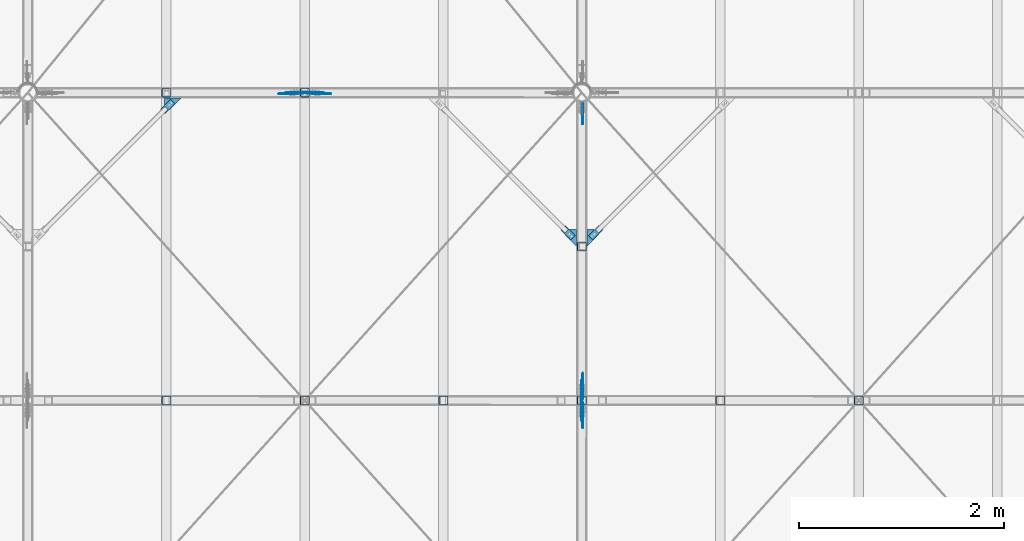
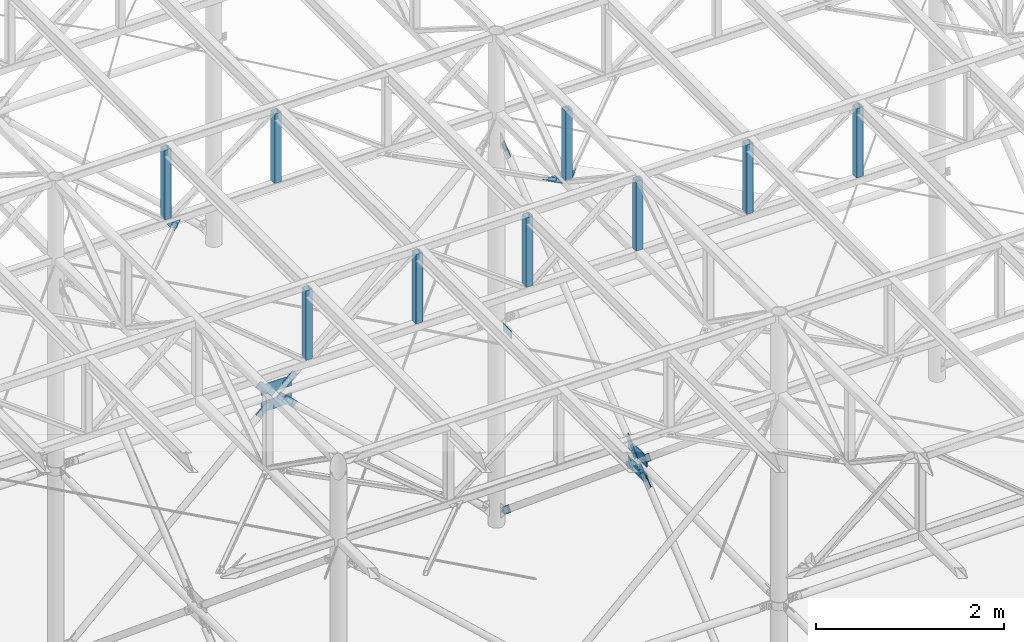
# One storey, part 90 of 132: 40 discrete accessories, 23 elements without a shape of their own.
"""IFC2X3 building model written with IfcOpenShell, lengths in millimetres."""

from ifc_helpers import new_model, si_unit, frame, origin_with_axes, origin_2d_with_axis, place, context, subcontext, project, spatial, polyline, rectangle, hollow_rectangle, outline, extrude, boolean, clip, halfspace, material, type_object, element, aggregate, save


model = new_model("IFC2X3")

# Units and contexts
model_context = context("Model", 3, precision=1e-05, world=origin_with_axes())
body_context = subcontext(model_context, "Body", "Model", "MODEL_VIEW")
ifc_project = project(units=[si_unit("LENGTHUNIT", "METRE", prefix="MILLI"), si_unit("AREAUNIT", "SQUARE_METRE"), si_unit("VOLUMEUNIT", "CUBIC_METRE"), si_unit("MASSUNIT", "GRAM", prefix="KILO"), si_unit("TIMEUNIT", "SECOND"), si_unit("PLANEANGLEUNIT", "RADIAN"), si_unit("SOLIDANGLEUNIT", "STERADIAN"), si_unit("THERMODYNAMICTEMPERATUREUNIT", "DEGREE_CELSIUS"), si_unit("LUMINOUSINTENSITYUNIT", "LUMEN")], contexts=[model_context])

# Site, building, storey
site_placement = place(None, origin_with_axes())
site = spatial("IfcSite", under=ifc_project, at=site_placement, Name="Budowa", CompositionType="ELEMENT")
building_placement = place(site_placement, origin_with_axes())
building = spatial("IfcBuilding", under=site, at=building_placement, Name="Undefined", CompositionType="ELEMENT")
storey_placement = place(building_placement, origin_with_axes())
storey = spatial("IfcBuildingStorey", under=building, at=storey_placement, Name="Undefined", CompositionType="ELEMENT", Elevation=0.0)

# Assembly, discrete accessory
assembly_1_placement = place(storey_placement, origin_with_axes())
assembly_1 = element("IfcElementAssembly", 1, at=assembly_1_placement, inside=storey, Name="Steel Assembly", AssemblyPlace="NOTDEFINED", PredefinedType="RIGID_FRAME")
ifc_material = material(Name="STEEL/S235")
discrete_accessory_type_1 = type_object("IfcDiscreteAccessoryType", Name="BLACHA")
discrete_accessory_1_placement = place(assembly_1_placement, frame((12051.7643931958, 17989.999997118, 9989.80782337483), z_axis=(0.0, -1.0, 0.0), x_axis=(0.0395984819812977, 0.0, 0.999215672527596)))
discrete_accessory_1 = element("IfcDiscreteAccessory", 2, at=discrete_accessory_1_placement, type_object=discrete_accessory_type_1, material=ifc_material, Name="BLACHA", ObjectType="BL8*86", context=body_context, shape_type="SweptSolid", body=[
    extrude(outline(polyline([(0.0, 0.0), (28.2842712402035, 3.27418092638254e-11), (60.8111839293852, 32.5269126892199), (60.8111839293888, 60.8111839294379), (-59.3969688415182, 181.019332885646), (-120.20815277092, 120.208152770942), (0.0, 0.0)])), frame((0.0, 0.0, -4.0), z_axis=(0.0, 0.0, 1.0), x_axis=(1.0, 0.0, 0.0)), (0.0, 0.0, 1.0), 8.0),
])
aggregate(assembly_1, [discrete_accessory_1])

assembly_2_placement = place(storey_placement, origin_with_axes())
assembly_2 = element("IfcElementAssembly", 3, at=assembly_2_placement, inside=storey, Name="Steel Assembly", AssemblyPlace="NOTDEFINED", PredefinedType="RIGID_FRAME")
discrete_accessory_2_placement = place(assembly_2_placement, frame((12256.5937293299, 17989.999997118, 10052.9793451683), z_axis=(0.0, -1.0, 0.0), x_axis=(-0.999215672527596, 0.0, -0.0395984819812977)))
discrete_accessory_2 = element("IfcDiscreteAccessory", 4, at=discrete_accessory_2_placement, type_object=discrete_accessory_type_1, material=ifc_material, Name="BLACHA", ObjectType="BL8*86", context=body_context, shape_type="SweptSolid", body=[
    extrude(outline(polyline([(0.0, 0.0), (28.2842712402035, 3.27418092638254e-11), (60.8111839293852, 32.5269126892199), (60.8111839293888, 60.8111839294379), (-59.3969688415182, 181.019332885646), (-120.20815277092, 120.208152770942), (0.0, 0.0)])), frame((0.0, 0.0, -4.0), z_axis=(0.0, 0.0, 1.0), x_axis=(1.0, 0.0, 0.0)), (0.0, 0.0, 1.0), 8.0),
])
aggregate(assembly_2, [discrete_accessory_2])

assembly_3_placement = place(storey_placement, origin_with_axes())
assembly_3 = element("IfcElementAssembly", 5, at=assembly_3_placement, inside=storey, Name="Steel Assembly", AssemblyPlace="NOTDEFINED", PredefinedType="RIGID_FRAME")
discrete_accessory_3_placement = place(assembly_3_placement, frame((12311.4051663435, 17997.999997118, 10071.5503790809), z_axis=(0.0, -1.0, 0.0), x_axis=(-1.0, 0.0, 0.0)))
discrete_accessory_3 = element("IfcDiscreteAccessory", 6, at=discrete_accessory_3_placement, type_object=discrete_accessory_type_1, material=ifc_material, Name="BLACHA", ObjectType="BL8*133", context=body_context, shape_type="SweptSolid", body=[
    extrude(outline(polyline([(0.0, 0.0), (372.807678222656, 0.0), (372.807678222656, 62.396900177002), (307.666687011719, 132.913940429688), (65.1409759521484, 132.913940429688), (0.0, 62.396900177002), (0.0, 0.0)])), frame((0.0, 0.0, -4.0), z_axis=(0.0, 0.0, 1.0), x_axis=(1.0, 0.0, 0.0)), (0.0, 0.0, 1.0), 8.0),
])

assembly_4_placement = place(storey_placement, origin_with_axes())
assembly_4 = element("IfcElementAssembly", 7, at=assembly_4_placement, inside=storey, Name="Steel Assembly", AssemblyPlace="NOTDEFINED", PredefinedType="RIGID_FRAME")
discrete_accessory_4_placement = place(assembly_4_placement, frame((11993.4089381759, 17989.9999968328, 10179.0214130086), z_axis=(0.0, -1.0, 0.0), x_axis=(0.999215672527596, 0.0, 0.0395984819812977)))
discrete_accessory_4 = element("IfcDiscreteAccessory", 8, at=discrete_accessory_4_placement, type_object=discrete_accessory_type_1, material=ifc_material, Name="BLACHA", ObjectType="BL8*86", context=body_context, shape_type="SweptSolid", body=[
    extrude(outline(polyline([(0.0, 0.0), (28.2842712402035, 3.27418092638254e-11), (60.8111839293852, 32.5269126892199), (60.8111839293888, 60.8111839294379), (-59.3969688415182, 181.019332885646), (-120.20815277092, 120.208152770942), (0.0, 0.0)])), frame((0.0, 0.0, -4.0), z_axis=(0.0, 0.0, 1.0), x_axis=(1.0, 0.0, 0.0)), (0.0, 0.0, 1.0), 8.0),
])
aggregate(assembly_4, [discrete_accessory_4])

assembly_5_placement = place(storey_placement, origin_with_axes())
assembly_5 = element("IfcElementAssembly", 9, at=assembly_5_placement, inside=storey, Name="Steel Assembly", AssemblyPlace="NOTDEFINED", PredefinedType="RIGID_FRAME")
discrete_accessory_5_placement = place(assembly_5_placement, frame((12198.2382742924, 17989.9999968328, 10242.192930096), z_axis=(0.0, -1.0, 0.0), x_axis=(-0.0395984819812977, 0.0, -0.999215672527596)))
discrete_accessory_5 = element("IfcDiscreteAccessory", 10, at=discrete_accessory_5_placement, type_object=discrete_accessory_type_1, material=ifc_material, Name="BLACHA", ObjectType="BL8*86", context=body_context, shape_type="SweptSolid", body=[
    extrude(outline(polyline([(0.0, 0.0), (28.2842712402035, 3.27418092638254e-11), (60.8111839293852, 32.5269126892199), (60.8111839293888, 60.8111839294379), (-59.3969688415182, 181.019332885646), (-120.20815277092, 120.208152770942), (0.0, 0.0)])), frame((0.0, 0.0, -4.0), z_axis=(0.0, 0.0, 1.0), x_axis=(1.0, 0.0, 0.0)), (0.0, 0.0, 1.0), 8.0),
])
aggregate(assembly_5, [discrete_accessory_5])

# Discrete accessory
discrete_accessory_6_placement = place(assembly_3_placement, frame((11938.5974989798, 17997.9999968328, 10160.4503767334), z_axis=(0.0, -1.0, 0.0), x_axis=(1.0, 0.0, 0.0)))
discrete_accessory_6 = element("IfcDiscreteAccessory", 11, at=discrete_accessory_6_placement, type_object=discrete_accessory_type_1, material=ifc_material, Name="BLACHA", ObjectType="BL8*133", context=body_context, shape_type="SweptSolid", body=[
    extrude(outline(polyline([(0.0, 0.0), (372.807678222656, 0.0), (372.807678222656, 62.396900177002), (307.666687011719, 132.913940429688), (65.1409759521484, 132.913940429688), (0.0, 62.396900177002), (0.0, 0.0)])), frame((0.0, 0.0, -4.0), z_axis=(0.0, 0.0, 1.0), x_axis=(1.0, 0.0, 0.0)), (0.0, 0.0, 1.0), 8.0),
])

aggregate(assembly_3, [discrete_accessory_3, discrete_accessory_6])

# Assembly, discrete accessory
assembly_6_placement = place(storey_placement, origin_with_axes())
assembly_6 = element("IfcElementAssembly", 12, at=assembly_6_placement, inside=storey, Name="Steel Assembly", AssemblyPlace="NOTDEFINED", PredefinedType="RIGID_FRAME")
discrete_accessory_7_placement = place(assembly_6_placement, frame((14832.9999991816, 14913.770166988, 9988.42275801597), z_axis=(1.0, 0.0, 0.0), x_axis=(0.0, 0.091855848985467, 0.995772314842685)))
discrete_accessory_7 = element("IfcDiscreteAccessory", 13, at=discrete_accessory_7_placement, type_object=discrete_accessory_type_1, material=ifc_material, Name="BLACHA", ObjectType="BL8*86", context=body_context, shape_type="SweptSolid", body=[
    extrude(outline(polyline([(0.0, 0.0), (28.2842712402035, 3.27418092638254e-11), (60.8111839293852, 32.5269126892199), (60.8111839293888, 60.8111839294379), (-59.3969688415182, 181.019332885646), (-120.20815277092, 120.208152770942), (0.0, 0.0)])), frame((0.0, 0.0, -4.0), z_axis=(0.0, 0.0, 1.0), x_axis=(1.0, 0.0, 0.0)), (0.0, 0.0, 1.0), 8.0),
])
aggregate(assembly_6, [discrete_accessory_7])

assembly_7_placement = place(storey_placement, origin_with_axes())
assembly_7 = element("IfcElementAssembly", 14, at=assembly_7_placement, inside=storey, Name="Steel Assembly", AssemblyPlace="NOTDEFINED", PredefinedType="RIGID_FRAME")
discrete_accessory_8_placement = place(assembly_7_placement, frame((14832.9999991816, 15141.2002099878, 10054.5627170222), z_axis=(1.0, 0.0, 0.0), x_axis=(0.0, -0.995772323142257, -0.0918557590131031)))
discrete_accessory_8 = element("IfcDiscreteAccessory", 15, at=discrete_accessory_8_placement, type_object=discrete_accessory_type_1, material=ifc_material, Name="BLACHA", ObjectType="BL8*86", context=body_context, shape_type="SweptSolid", body=[
    extrude(outline(polyline([(0.0, 0.0), (28.2842712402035, 3.27418092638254e-11), (60.8111839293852, 32.5269126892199), (60.8111839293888, 60.8111839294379), (-59.3969688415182, 181.019332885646), (-120.20815277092, 120.208152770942), (0.0, 0.0)])), frame((0.0, 0.0, -4.0), z_axis=(0.0, 0.0, 1.0), x_axis=(1.0, 0.0, 0.0)), (0.0, 0.0, 1.0), 8.0),
])

assembly_8_placement = place(storey_placement, origin_with_axes())
assembly_8 = element("IfcElementAssembly", 16, at=assembly_8_placement, inside=storey, Name="Steel Assembly", AssemblyPlace="NOTDEFINED", PredefinedType="RIGID_FRAME")
discrete_accessory_9_placement = place(assembly_8_placement, frame((14824.9999991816, 15198.2308804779, 10072.3460259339), z_axis=(1.0, 0.0, 0.0), x_axis=(0.0, -1.0, 0.0)))
discrete_accessory_9 = element("IfcDiscreteAccessory", 17, at=discrete_accessory_9_placement, type_object=discrete_accessory_type_1, material=ifc_material, Name="BLACHA", ObjectType="BL8*133", context=body_context, shape_type="SweptSolid", body=[
    extrude(outline(polyline([(0.0, 0.0), (396.459625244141, 0.0), (396.459625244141, 58.6795501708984), (335.099731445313, 132.510192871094), (61.3598861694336, 132.510192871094), (0.0, 58.6795463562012), (0.0, 0.0)])), frame((0.0, 0.0, -4.0), z_axis=(0.0, 0.0, 1.0), x_axis=(1.0, 0.0, 0.0)), (0.0, 0.0, 1.0), 8.0),
])

assembly_9_placement = place(storey_placement, origin_with_axes())
assembly_9 = element("IfcElementAssembly", 18, at=assembly_9_placement, inside=storey, Name="Steel Assembly", AssemblyPlace="NOTDEFINED", PredefinedType="RIGID_FRAME")
discrete_accessory_10_placement = place(assembly_9_placement, frame((14832.9999994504, 15086.232628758, 10243.5779976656), z_axis=(1.0, 0.0, 0.0), x_axis=(0.0, -0.0918558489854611, -0.995772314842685)))
discrete_accessory_10 = element("IfcDiscreteAccessory", 19, at=discrete_accessory_10_placement, type_object=discrete_accessory_type_1, material=ifc_material, Name="BLACHA", ObjectType="BL8*86", context=body_context, shape_type="SweptSolid", body=[
    extrude(outline(polyline([(0.0, 0.0), (28.2842712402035, 3.27418092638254e-11), (60.8111839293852, 32.5269126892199), (60.8111839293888, 60.8111839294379), (-59.3969688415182, 181.019332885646), (-120.20815277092, 120.208152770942), (0.0, 0.0)])), frame((0.0, 0.0, -4.0), z_axis=(0.0, 0.0, 1.0), x_axis=(1.0, 0.0, 0.0)), (0.0, 0.0, 1.0), 8.0),
])

assembly_10_placement = place(storey_placement, origin_with_axes())
assembly_10 = element("IfcElementAssembly", 20, at=assembly_10_placement, inside=storey, Name="Steel Assembly", AssemblyPlace="NOTDEFINED", PredefinedType="RIGID_FRAME")
discrete_accessory_11_placement = place(assembly_10_placement, frame((14832.9999994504, 14858.8013364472, 10177.4380412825), z_axis=(1.0, 0.0, 0.0), x_axis=(0.0, 0.995772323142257, 0.0918557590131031)))
discrete_accessory_11 = element("IfcDiscreteAccessory", 21, at=discrete_accessory_11_placement, type_object=discrete_accessory_type_1, material=ifc_material, Name="BLACHA", ObjectType="BL8*86", context=body_context, shape_type="SweptSolid", body=[
    extrude(outline(polyline([(0.0, 0.0), (28.2842712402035, 3.27418092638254e-11), (60.8111839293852, 32.5269126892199), (60.8111839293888, 60.8111839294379), (-59.3969688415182, 181.019332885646), (-120.20815277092, 120.208152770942), (0.0, 0.0)])), frame((0.0, 0.0, -4.0), z_axis=(0.0, 0.0, 1.0), x_axis=(1.0, 0.0, 0.0)), (0.0, 0.0, 1.0), 8.0),
])
aggregate(assembly_10, [discrete_accessory_11])

# Discrete accessory
discrete_accessory_12_placement = place(assembly_8_placement, frame((14824.9999994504, 14801.7706639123, 10159.6547299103), z_axis=(1.0, 0.0, 0.0), x_axis=(0.0, 1.0, 0.0)))
discrete_accessory_12 = element("IfcDiscreteAccessory", 22, at=discrete_accessory_12_placement, type_object=discrete_accessory_type_1, material=ifc_material, Name="BLACHA", ObjectType="BL8*133", context=body_context, shape_type="SweptSolid", body=[
    extrude(outline(polyline([(0.0, 0.0), (396.460845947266, 0.0), (396.460845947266, 58.6795501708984), (335.100982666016, 132.510192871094), (61.3598861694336, 132.510192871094), (0.0, 58.6795463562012), (0.0, 0.0)])), frame((0.0, 0.0, -4.0), z_axis=(0.0, 0.0, 1.0), x_axis=(1.0, 0.0, 0.0)), (0.0, 0.0, 1.0), 8.0),
])

discrete_accessory_13_placement = place(assembly_7_placement, frame((14833.0000000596, 17879.0487899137, 7723.25304714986), z_axis=(0.0, 0.639165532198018, 0.76906919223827), x_axis=(0.0, -0.76906919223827, 0.639165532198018)))
discrete_accessory_13 = element("IfcDiscreteAccessory", 23, at=discrete_accessory_13_placement, type_object=discrete_accessory_type_1, material=ifc_material, Name="BLACHA", ObjectType="BL8*86", context=body_context, shape_type="CSG", body=[
    boolean("DIFFERENCE", boolean("DIFFERENCE", extrude(rectangle(XDim=8.0, YDim=86.0, at=origin_2d_with_axis()), frame((190.000000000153, -3.63797880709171e-12, 3.30513394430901e-13), z_axis=(-1.0, 0.0, 0.0), x_axis=(0.0, -1.0, 0.0)), (0.0, 0.0, 1.0), 190.0), extrude(outline(polyline([(0.0, 0.0), (20.0000000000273, -3.63797880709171e-12), (5.45696821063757e-12, 20.0000000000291), (0.0, 0.0)])), frame((3.63797880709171e-12, -6.49999986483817, 43.0), z_axis=(0.0, 1.0, 0.0), x_axis=(1.0, 0.0, 0.0)), (0.0, 0.0, 1.0), 13.0)), extrude(outline(polyline([(0.0, 0.0), (20.0000000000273, -3.63797880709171e-12), (5.45696821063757e-12, 20.0000000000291), (0.0, 0.0)])), frame((0.0, 6.50000013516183, -43.0), z_axis=(0.0, -1.0, 0.0), x_axis=(1.0, 0.0, 0.0)), (0.0, 0.0, 1.0), 13.0)),
])

aggregate(assembly_7, [discrete_accessory_8, discrete_accessory_13])

discrete_accessory_14_placement = place(assembly_9_placement, frame((14833.0000000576, 17879.0487906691, 12508.7467522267), z_axis=(0.0, -0.639165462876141, 0.769069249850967), x_axis=(0.0, -0.769069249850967, -0.639165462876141)))
discrete_accessory_14 = element("IfcDiscreteAccessory", 24, at=discrete_accessory_14_placement, type_object=discrete_accessory_type_1, material=ifc_material, Name="BLACHA", ObjectType="BL8*86", context=body_context, shape_type="CSG", body=[
    boolean("DIFFERENCE", boolean("DIFFERENCE", extrude(rectangle(XDim=8.0, YDim=86.0, at=origin_2d_with_axis()), frame((190.000000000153, -3.63797880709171e-12, 3.30513394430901e-13), z_axis=(-1.0, 0.0, 0.0), x_axis=(0.0, -1.0, 0.0)), (0.0, 0.0, 1.0), 190.0), extrude(outline(polyline([(0.0, 0.0), (20.0000000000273, -3.63797880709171e-12), (5.45696821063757e-12, 20.0000000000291), (0.0, 0.0)])), frame((0.0, 6.50000013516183, -43.0), z_axis=(0.0, -1.0, 0.0), x_axis=(1.0, 0.0, 0.0)), (0.0, 0.0, 1.0), 13.0)), extrude(outline(polyline([(0.0, 0.0), (20.0000000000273, -3.63797880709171e-12), (5.45696821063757e-12, 20.0000000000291), (0.0, 0.0)])), frame((3.63797880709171e-12, -6.49999986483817, 43.0), z_axis=(0.0, 1.0, 0.0), x_axis=(1.0, 0.0, 0.0)), (0.0, 0.0, 1.0), 13.0)),
])

aggregate(assembly_9, [discrete_accessory_10, discrete_accessory_14])

discrete_accessory_15_placement = place(assembly_8_placement, frame((14832.9999972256, 17872.0920947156, 10116.0003779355), z_axis=(-1.0, 0.0, 0.0), x_axis=(0.0, -1.0, 0.0)))
discrete_accessory_15 = element("IfcDiscreteAccessory", 25, at=discrete_accessory_15_placement, type_object=discrete_accessory_type_1, material=ifc_material, Name="BLACHA", ObjectType="BL8*100", context=body_context, shape_type="SweptSolid", body=[
    extrude(outline(polyline([(180.0, -50.0), (0.0, -50.0), (0.0, 50.0), (180.0, 50.0), (180.0, -50.0)])), frame((0.0, 0.0, -4.0), z_axis=(0.0, 0.0, 1.0), x_axis=(1.0, 0.0, 0.0)), (0.0, 0.0, 1.0), 8.0),
])

aggregate(assembly_8, [discrete_accessory_9, discrete_accessory_12, discrete_accessory_15])

# Assembly, discrete accessory
assembly_11_placement = place(storey_placement, origin_with_axes())
assembly_11 = element("IfcElementAssembly", 26, at=assembly_11_placement, inside=storey, Name="Steel Assembly", AssemblyPlace="NOTDEFINED", PredefinedType="RIGID_FRAME")
discrete_accessory_16_placement = place(assembly_11_placement, frame((14833.0000000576, 14964.2782511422, 10086.3112420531), z_axis=(0.0, -0.639165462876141, 0.769069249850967), x_axis=(0.0, -0.769069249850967, -0.639165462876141)))
discrete_accessory_16 = element("IfcDiscreteAccessory", 27, at=discrete_accessory_16_placement, type_object=discrete_accessory_type_1, material=ifc_material, Name="BLACHA", ObjectType="BL8*69", context=body_context, shape_type="SweptSolid", body=[
    extrude(rectangle(XDim=8.0, YDim=69.0, at=origin_2d_with_axis()), frame((149.999999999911, 0.0, 0.0), z_axis=(-1.0, 0.0, 0.0), x_axis=(0.0, -1.0, 0.0)), (0.0, 0.0, 1.0), 150.0),
])
aggregate(assembly_11, [discrete_accessory_16])

# Assembly, discrete accessories
assembly_12_placement = place(storey_placement, origin_with_axes())
assembly_12 = element("IfcElementAssembly", 28, at=assembly_12_placement, inside=storey, Name="Steel Assembly", AssemblyPlace="NOTDEFINED", PredefinedType="RIGID_FRAME")
discrete_accessory_17_placement = place(assembly_12_placement, frame((14825.0000000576, 15007.937722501, 10071.235389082), z_axis=(1.0, 0.0, 0.0), x_axis=(0.0, -0.76906919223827, 0.639165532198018)))
discrete_accessory_17 = element("IfcDiscreteAccessory", 29, at=discrete_accessory_17_placement, type_object=discrete_accessory_type_1, material=ifc_material, Name="BLACHA", ObjectType="BL8*97", context=body_context, shape_type="SweptSolid", body=[
    extrude(outline(polyline([(0.0, 0.0), (98.5107040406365, 3.63797880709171e-12), (98.5107040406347, 97.5665740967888), (20.8438243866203, 112.018440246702), (0.0, 0.0)])), frame((0.0, 0.0, -4.0), z_axis=(0.0, 0.0, 1.0), x_axis=(1.0, 0.0, 0.0)), (0.0, 0.0, 1.0), 8.0),
])
discrete_accessory_18_placement = place(assembly_12_placement, frame((14833.0000000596, 17879.0487899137, 7723.25304714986), z_axis=(0.0, 0.639165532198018, 0.76906919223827), x_axis=(0.0, -0.76906919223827, 0.639165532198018)))
discrete_accessory_18 = element("IfcDiscreteAccessory", 30, at=discrete_accessory_18_placement, type_object=discrete_accessory_type_1, material=ifc_material, Name="BLACHA", ObjectType="BL8*69", context=body_context, shape_type="SweptSolid", body=[
    extrude(rectangle(XDim=8.0, YDim=69.0, at=origin_2d_with_axis()), frame((149.999999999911, 0.0, 0.0), z_axis=(-1.0, 0.0, 0.0), x_axis=(0.0, -1.0, 0.0)), (0.0, 0.0, 1.0), 150.0),
])

# Assembly, discrete accessory
assembly_13_placement = place(storey_placement, origin_with_axes())
assembly_13 = element("IfcElementAssembly", 31, at=assembly_13_placement, inside=storey, Name="Steel Assembly", AssemblyPlace="NOTDEFINED", PredefinedType="RIGID_FRAME")
discrete_accessory_19_placement = place(assembly_13_placement, frame((14832.9999998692, 15035.7239218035, 10145.6889960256), z_axis=(0.0, 0.639165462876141, -0.769069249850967), x_axis=(0.0, 0.769069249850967, 0.639165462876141)))
discrete_accessory_19 = element("IfcDiscreteAccessory", 32, at=discrete_accessory_19_placement, type_object=discrete_accessory_type_1, material=ifc_material, Name="BLACHA", ObjectType="BL8*69", context=body_context, shape_type="SweptSolid", body=[
    extrude(rectangle(XDim=8.0, YDim=69.0, at=origin_2d_with_axis()), frame((149.999999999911, 0.0, 0.0), z_axis=(-1.0, 0.0, 0.0), x_axis=(0.0, -1.0, 0.0)), (0.0, 0.0, 1.0), 150.0),
])

# Discrete accessory
discrete_accessory_20_placement = place(assembly_12_placement, frame((14824.9999998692, 14992.0644520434, 10160.7648470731), z_axis=(1.0, 0.0, 0.0), x_axis=(0.0, 0.769069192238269, -0.639165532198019)))
discrete_accessory_20 = element("IfcDiscreteAccessory", 33, at=discrete_accessory_20_placement, type_object=discrete_accessory_type_1, material=ifc_material, Name="BLACHA", ObjectType="BL8*97", context=body_context, shape_type="SweptSolid", body=[
    extrude(outline(polyline([(0.0, 0.0), (98.5107040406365, 3.63797880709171e-12), (98.5107040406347, 97.5665740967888), (20.8438243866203, 112.018440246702), (0.0, 0.0)])), frame((0.0, 0.0, -4.0), z_axis=(0.0, 0.0, 1.0), x_axis=(1.0, 0.0, 0.0)), (0.0, 0.0, 1.0), 8.0),
])

aggregate(assembly_12, [discrete_accessory_17, discrete_accessory_18, discrete_accessory_20])

discrete_accessory_21_placement = place(assembly_13_placement, frame((14833.0000000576, 17879.0487906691, 12508.7467522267), z_axis=(0.0, -0.639165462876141, 0.769069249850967), x_axis=(0.0, -0.769069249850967, -0.639165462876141)))
discrete_accessory_21 = element("IfcDiscreteAccessory", 34, at=discrete_accessory_21_placement, type_object=discrete_accessory_type_1, material=ifc_material, Name="BLACHA", ObjectType="BL8*69", context=body_context, shape_type="SweptSolid", body=[
    extrude(rectangle(XDim=8.0, YDim=69.0, at=origin_2d_with_axis()), frame((149.999999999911, 0.0, 0.0), z_axis=(-1.0, 0.0, 0.0), x_axis=(0.0, -1.0, 0.0)), (0.0, 0.0, 1.0), 150.0),
])

aggregate(assembly_13, [discrete_accessory_19, discrete_accessory_21])

# Assembly, discrete accessory
assembly_14_placement = place(storey_placement, origin_with_axes())
assembly_14 = element("IfcElementAssembly", 35, at=assembly_14_placement, inside=storey, Name="Steel Assembly", AssemblyPlace="NOTDEFINED", PredefinedType="RIGID_FRAME")
discrete_accessory_22_placement = place(assembly_14_placement, frame((12156.0118626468, 17991.9999977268, 10087.3540261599), z_axis=(-0.67855182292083, 0.0, -0.734552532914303), x_axis=(0.734552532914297, 0.0, -0.678551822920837)))
discrete_accessory_22 = element("IfcDiscreteAccessory", 36, at=discrete_accessory_22_placement, type_object=discrete_accessory_type_1, material=ifc_material, Name="BLACHA", ObjectType="BL8*69", context=body_context, shape_type="SweptSolid", body=[
    extrude(rectangle(XDim=8.0, YDim=69.0, at=origin_2d_with_axis()), frame((149.999999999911, 0.0, 0.0), z_axis=(-1.0, 0.0, 0.0), x_axis=(0.0, -1.0, 0.0)), (0.0, 0.0, 1.0), 150.0),
])
aggregate(assembly_14, [discrete_accessory_22])

assembly_15_placement = place(storey_placement, origin_with_axes())
assembly_15 = element("IfcElementAssembly", 37, at=assembly_15_placement, inside=storey, Name="Steel Assembly", AssemblyPlace="NOTDEFINED", PredefinedType="RIGID_FRAME")
discrete_accessory_23_placement = place(assembly_15_placement, frame((12181.529211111, 17999.9999977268, 10128.256469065), z_axis=(0.0, -1.0, 0.0), x_axis=(-0.734552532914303, 0.0, -0.67855182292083)))
discrete_accessory_23 = element("IfcDiscreteAccessory", 38, at=discrete_accessory_23_placement, type_object=discrete_accessory_type_1, material=ifc_material, Name="BLACHA", ObjectType="BL8*87", context=body_context, shape_type="SweptSolid", body=[
    extrude(outline(polyline([(0.0, 0.0), (87.1330947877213, 3.63797880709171e-12), (78.7522506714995, 105.573730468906), (-3.63797880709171e-12, 99.3220748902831), (0.0, 0.0)])), frame((0.0, 0.0, -4.0), z_axis=(0.0, 0.0, 1.0), x_axis=(1.0, 0.0, 0.0)), (0.0, 0.0, 1.0), 8.0),
])

assembly_16_placement = place(storey_placement, origin_with_axes())
assembly_16 = element("IfcElementAssembly", 39, at=assembly_16_placement, inside=storey, Name="Steel Assembly", AssemblyPlace="NOTDEFINED", PredefinedType="RIGID_FRAME")
discrete_accessory_24_placement = place(assembly_16_placement, frame((12093.9908069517, 17991.9999975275, 10144.6467300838), z_axis=(0.678551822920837, 0.0, 0.734552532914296), x_axis=(-0.734552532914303, 0.0, 0.67855182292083)))
discrete_accessory_24 = element("IfcDiscreteAccessory", 40, at=discrete_accessory_24_placement, type_object=discrete_accessory_type_1, material=ifc_material, Name="BLACHA", ObjectType="BL8*69", context=body_context, shape_type="SweptSolid", body=[
    extrude(rectangle(XDim=8.0, YDim=69.0, at=origin_2d_with_axis()), frame((149.999999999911, 0.0, 0.0), z_axis=(-1.0, 0.0, 0.0), x_axis=(0.0, -1.0, 0.0)), (0.0, 0.0, 1.0), 150.0),
])
aggregate(assembly_16, [discrete_accessory_24])

# Discrete accessory
discrete_accessory_25_placement = place(assembly_15_placement, frame((12068.4734567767, 17999.9999975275, 10103.7442853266), z_axis=(0.0, -1.0, 0.0), x_axis=(0.734552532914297, 0.0, 0.678551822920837)))
discrete_accessory_25 = element("IfcDiscreteAccessory", 41, at=discrete_accessory_25_placement, type_object=discrete_accessory_type_1, material=ifc_material, Name="BLACHA", ObjectType="BL8*87", context=body_context, shape_type="SweptSolid", body=[
    extrude(outline(polyline([(0.0, 0.0), (87.1330947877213, 3.63797880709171e-12), (78.7522506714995, 105.573730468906), (-3.63797880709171e-12, 99.3220748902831), (0.0, 0.0)])), frame((0.0, 0.0, -4.0), z_axis=(0.0, 0.0, 1.0), x_axis=(1.0, 0.0, 0.0)), (0.0, 0.0, 1.0), 8.0),
])

aggregate(assembly_15, [discrete_accessory_23, discrete_accessory_25])

# Assembly, discrete accessory
assembly_17_placement = place(storey_placement, origin_with_axes())
assembly_17 = element("IfcElementAssembly", 42, at=assembly_17_placement, inside=storey, Name="Steel Assembly", AssemblyPlace="NOTDEFINED", PredefinedType="RIGID_FRAME")
discrete_accessory_26_placement = place(assembly_17_placement, frame((10762.0050487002, 17794.5786419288, 12830.0), z_axis=(0.0, 0.0, 1.0), x_axis=(0.707106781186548, 0.707106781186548, 0.0)))
discrete_accessory_26 = element("IfcDiscreteAccessory", 43, at=discrete_accessory_26_placement, type_object=discrete_accessory_type_1, material=ifc_material, Name="BLACHA", ObjectType="BL6*60", context=body_context, shape_type="SweptSolid", body=[
    extrude(outline(polyline([(0.0, 0.0), (139.99999999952, -6.2755134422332e-10), (139.99999999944, 59.9999999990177), (0.0, 60.0), (-8.00355337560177e-11, 54.9999999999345), (49.9999999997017, 54.9999999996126), (49.9999999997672, 4.99999999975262), (-8.73114913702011e-11, 5.00000000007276), (0.0, 0.0)])), frame((0.0, 0.0, -3.0), z_axis=(0.0, 0.0, 1.0), x_axis=(1.0, 0.0, 0.0)), (0.0, 0.0, 1.0), 6.0),
])
aggregate(assembly_17, [discrete_accessory_26])

assembly_18_placement = place(storey_placement, origin_with_axes())
assembly_18 = element("IfcElementAssembly", 44, at=assembly_18_placement, inside=storey, Name="Steel Assembly", AssemblyPlace="NOTDEFINED", PredefinedType="RIGID_FRAME")
discrete_accessory_27_placement = place(assembly_18_placement, frame((10924.4974746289, 17950.000000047, 12824.0), z_axis=(0.0, 0.0, 1.0), x_axis=(-1.0, 0.0, 0.0)))
discrete_accessory_27 = element("IfcDiscreteAccessory", 45, at=discrete_accessory_27_placement, type_object=discrete_accessory_type_1, material=ifc_material, Name="BLACHA", ObjectType="BL6*117", context=body_context, shape_type="SweptSolid", body=[
    extrude(outline(polyline([(0.0, 0.0), (166.027954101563, 0.0), (166.027954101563, 67.0330123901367), (116.530487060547, 116.530487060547), (0.0, 0.0)])), frame((0.0, 0.0, -3.0), z_axis=(0.0, 0.0, 1.0), x_axis=(1.0, 0.0, 0.0)), (0.0, 0.0, 1.0), 6.0),
])

assembly_19_placement = place(storey_placement, origin_with_axes())
assembly_19 = element("IfcElementAssembly", 46, at=assembly_19_placement, inside=storey, Name="Steel Assembly", AssemblyPlace="NOTDEFINED", PredefinedType="RIGID_FRAME")
discrete_accessory_28_placement = place(assembly_19_placement, frame((14987.9949512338, 16705.4213581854, 12830.0), z_axis=(0.0, 0.0, 1.0), x_axis=(-0.70710678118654, -0.707106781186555, 0.0)))
discrete_accessory_28 = element("IfcDiscreteAccessory", 47, at=discrete_accessory_28_placement, type_object=discrete_accessory_type_1, material=ifc_material, Name="BLACHA", ObjectType="BL6*60", context=body_context, shape_type="SweptSolid", body=[
    extrude(outline(polyline([(0.0, 0.0), (139.99999999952, -6.2755134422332e-10), (139.99999999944, 59.9999999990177), (0.0, 60.0), (-8.00355337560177e-11, 54.9999999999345), (49.9999999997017, 54.9999999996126), (49.9999999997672, 4.99999999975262), (-8.73114913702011e-11, 5.00000000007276), (0.0, 0.0)])), frame((0.0, 0.0, -3.0), z_axis=(0.0, 0.0, 1.0), x_axis=(1.0, 0.0, 0.0)), (0.0, 0.0, 1.0), 6.0),
])
aggregate(assembly_19, [discrete_accessory_28])

assembly_20_placement = place(storey_placement, origin_with_axes())
assembly_20 = element("IfcElementAssembly", 48, at=assembly_20_placement, inside=storey, Name="Steel Assembly", AssemblyPlace="NOTDEFINED", PredefinedType="RIGID_FRAME")
discrete_accessory_29_placement = place(assembly_20_placement, frame((14874.999999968, 16666.5304833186, 12824.0), z_axis=(0.0, 0.0, 1.0), x_axis=(0.0, -1.0, 0.0)))
discrete_accessory_29 = element("IfcDiscreteAccessory", 49, at=discrete_accessory_29_placement, type_object=discrete_accessory_type_1, material=ifc_material, Name="BLACHA", ObjectType="BL6*117", context=body_context, shape_type="SweptSolid", body=[
    extrude(outline(polyline([(0.0, 0.0), (166.027954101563, 0.0), (49.4974746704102, 116.530487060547), (0.0, 67.0330123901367), (0.0, 0.0)])), frame((0.0, 0.0, -3.0), z_axis=(0.0, 0.0, 1.0), x_axis=(1.0, 0.0, 0.0)), (0.0, 0.0, 1.0), 6.0),
])

assembly_21_placement = place(storey_placement, origin_with_axes())
assembly_21 = element("IfcElementAssembly", 50, at=assembly_21_placement, inside=storey, Name="Steel Assembly", AssemblyPlace="NOTDEFINED", PredefinedType="RIGID_FRAME")
discrete_accessory_30_placement = place(assembly_21_placement, frame((14619.5786418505, 16662.9949512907, 12830.0), z_axis=(0.0, 0.0, 1.0), x_axis=(0.707106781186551, -0.707106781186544, 0.0)))
discrete_accessory_30 = element("IfcDiscreteAccessory", 51, at=discrete_accessory_30_placement, type_object=discrete_accessory_type_1, material=ifc_material, Name="BLACHA", ObjectType="BL6*60", context=body_context, shape_type="SweptSolid", body=[
    extrude(outline(polyline([(0.0, 0.0), (139.99999999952, -6.2755134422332e-10), (139.99999999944, 59.9999999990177), (0.0, 60.0), (-8.00355337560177e-11, 54.9999999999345), (49.9999999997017, 54.9999999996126), (49.9999999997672, 4.99999999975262), (-8.73114913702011e-11, 5.00000000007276), (0.0, 0.0)])), frame((0.0, 0.0, -3.0), z_axis=(0.0, 0.0, 1.0), x_axis=(1.0, 0.0, 0.0)), (0.0, 0.0, 1.0), 6.0),
])
aggregate(assembly_21, [discrete_accessory_30])

# Discrete accessory
discrete_accessory_31_placement = place(assembly_20_placement, frame((14774.999999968, 16500.5025253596, 12824.0), z_axis=(0.0, 0.0, 1.0), x_axis=(0.0, 1.0, 0.0)))
discrete_accessory_31 = element("IfcDiscreteAccessory", 52, at=discrete_accessory_31_placement, type_object=discrete_accessory_type_1, material=ifc_material, Name="BLACHA", ObjectType="BL6*117", context=body_context, shape_type="SweptSolid", body=[
    extrude(outline(polyline([(0.0, 0.0), (166.027954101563, 0.0), (166.027954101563, 67.0330123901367), (116.530487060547, 116.530487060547), (0.0, 0.0)])), frame((0.0, 0.0, -3.0), z_axis=(0.0, 0.0, 1.0), x_axis=(1.0, 0.0, 0.0)), (0.0, 0.0, 1.0), 6.0),
])

# Assembly, discrete accessories
assembly_22_placement = place(storey_placement, origin_with_axes())
assembly_22 = element("IfcElementAssembly", 53, at=assembly_22_placement, inside=storey, Name="Steel Assembly", AssemblyPlace="NOTDEFINED", PredefinedType="RIGID_FRAME")
discrete_accessory_type_2 = type_object("IfcDiscreteAccessoryType", Name="BEAM")
discrete_accessory_32_placement = place(assembly_22_placement, frame((16174.9999999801, 15000.0000000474, 13780.0), z_axis=(0.0, -1.0, 0.0), x_axis=(0.0, 0.0, -1.0)))
discrete_accessory_32 = element("IfcDiscreteAccessory", 54, at=discrete_accessory_32_placement, type_object=discrete_accessory_type_2, material=ifc_material, Name="BEAM", ObjectType="SHS90*6", context=body_context, shape_type="Clipping", body=[
    clip(clip(extrude(hollow_rectangle(XDim=90.0, YDim=90.0, WallThickness=6.0, InnerFilletRadius=6.0, OuterFilletRadius=12.0, at=origin_2d_with_axis()), frame((900.0, 0.0, 0.0), z_axis=(-1.0, 0.0, 0.0), x_axis=(0.0, -1.0, 0.0)), (0.0, 0.0, 1.0), 900.0), halfspace(frame((900.0, 0.0, 1000.0), z_axis=(-1.0, 0.0, 0.0), x_axis=(0.0, -1.0, 0.0)), True)), halfspace(frame((0.0, 0.0, 1000.0), z_axis=(1.0, 0.0, 0.0), x_axis=(0.0, 1.0, 0.0)), True)),
])
discrete_accessory_33_placement = place(assembly_22_placement, frame((17524.9999999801, 15000.0000000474, 13780.0), z_axis=(0.0, -1.0, 0.0), x_axis=(0.0, 0.0, -1.0)))
discrete_accessory_33 = element("IfcDiscreteAccessory", 55, at=discrete_accessory_33_placement, type_object=discrete_accessory_type_2, material=ifc_material, Name="BEAM", ObjectType="SHS90*6", context=body_context, shape_type="Clipping", body=[
    clip(clip(extrude(hollow_rectangle(XDim=90.0, YDim=90.0, WallThickness=6.0, InnerFilletRadius=6.0, OuterFilletRadius=12.0, at=origin_2d_with_axis()), frame((900.0, 0.0, 0.0), z_axis=(-1.0, 0.0, 0.0), x_axis=(0.0, -1.0, 0.0)), (0.0, 0.0, 1.0), 900.0), halfspace(frame((900.0, 0.0, 1000.0), z_axis=(-1.0, 0.0, 0.0), x_axis=(0.0, -1.0, 0.0)), True)), halfspace(frame((0.0, 0.0, 1000.0), z_axis=(1.0, 0.0, 0.0), x_axis=(0.0, 1.0, 0.0)), True)),
])
aggregate(assembly_22, [discrete_accessory_32, discrete_accessory_33])

assembly_23_placement = place(storey_placement, origin_with_axes())
assembly_23 = element("IfcElementAssembly", 56, at=assembly_23_placement, inside=storey, Name="Steel Assembly", AssemblyPlace="NOTDEFINED", PredefinedType="RIGID_FRAME")
discrete_accessory_34_placement = place(assembly_23_placement, frame((13474.9999999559, 15000.0000000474, 13780.0), z_axis=(0.0, -1.0, 0.0), x_axis=(0.0, 0.0, -1.0)))
discrete_accessory_34 = element("IfcDiscreteAccessory", 57, at=discrete_accessory_34_placement, type_object=discrete_accessory_type_2, material=ifc_material, Name="BEAM", ObjectType="SHS90*6", context=body_context, shape_type="Clipping", body=[
    clip(clip(extrude(hollow_rectangle(XDim=90.0, YDim=90.0, WallThickness=6.0, InnerFilletRadius=6.0, OuterFilletRadius=12.0, at=origin_2d_with_axis()), frame((900.0, 0.0, 0.0), z_axis=(-1.0, 0.0, 0.0), x_axis=(0.0, -1.0, 0.0)), (0.0, 0.0, 1.0), 900.0), halfspace(frame((900.0, 0.0, 1000.0), z_axis=(-1.0, 0.0, 0.0), x_axis=(0.0, -1.0, 0.0)), True)), halfspace(frame((0.0, 0.0, 1000.0), z_axis=(1.0, 0.0, 0.0), x_axis=(0.0, 1.0, 0.0)), True)),
])
discrete_accessory_35_placement = place(assembly_23_placement, frame((10774.9999999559, 15000.0000000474, 13780.0), z_axis=(0.0, -1.0, 0.0), x_axis=(0.0, 0.0, -1.0)))
discrete_accessory_35 = element("IfcDiscreteAccessory", 58, at=discrete_accessory_35_placement, type_object=discrete_accessory_type_2, material=ifc_material, Name="BEAM", ObjectType="SHS90*6", context=body_context, shape_type="Clipping", body=[
    clip(clip(extrude(hollow_rectangle(XDim=90.0, YDim=90.0, WallThickness=6.0, InnerFilletRadius=6.0, OuterFilletRadius=12.0, at=origin_2d_with_axis()), frame((900.0, 0.0, 0.0), z_axis=(-1.0, 0.0, 0.0), x_axis=(0.0, -1.0, 0.0)), (0.0, 0.0, 1.0), 900.0), halfspace(frame((900.0, 0.0, 1000.0), z_axis=(-1.0, 0.0, 0.0), x_axis=(0.0, -1.0, 0.0)), True)), halfspace(frame((0.0, 0.0, 1000.0), z_axis=(1.0, 0.0, 0.0), x_axis=(0.0, 1.0, 0.0)), True)),
])
discrete_accessory_36_placement = place(assembly_23_placement, frame((12124.9999999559, 15000.0000000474, 13780.0), z_axis=(0.0, -1.0, 0.0), x_axis=(0.0, 0.0, -1.0)))
discrete_accessory_36 = element("IfcDiscreteAccessory", 59, at=discrete_accessory_36_placement, type_object=discrete_accessory_type_2, material=ifc_material, Name="BEAM", ObjectType="SHS90*6", context=body_context, shape_type="Clipping", body=[
    clip(clip(extrude(hollow_rectangle(XDim=90.0, YDim=90.0, WallThickness=6.0, InnerFilletRadius=6.0, OuterFilletRadius=12.0, at=origin_2d_with_axis()), frame((900.0, 0.0, 0.0), z_axis=(-1.0, 0.0, 0.0), x_axis=(0.0, -1.0, 0.0)), (0.0, 0.0, 1.0), 900.0), halfspace(frame((900.0, 0.0, 1000.0), z_axis=(-1.0, 0.0, 0.0), x_axis=(0.0, -1.0, 0.0)), True)), halfspace(frame((0.0, 0.0, 1000.0), z_axis=(1.0, 0.0, 0.0), x_axis=(0.0, 1.0, 0.0)), True)),
])
aggregate(assembly_23, [discrete_accessory_34, discrete_accessory_35, discrete_accessory_36])

# Discrete accessory
discrete_accessory_37_placement = place(assembly_20_placement, frame((14824.999999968, 16500.000000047, 13780.0), z_axis=(1.0, 0.0, 0.0), x_axis=(0.0, 0.0, -1.0)))
discrete_accessory_37 = element("IfcDiscreteAccessory", 60, at=discrete_accessory_37_placement, type_object=discrete_accessory_type_2, material=ifc_material, Name="BEAM", ObjectType="SHS90*6", context=body_context, shape_type="Clipping", body=[
    clip(clip(extrude(hollow_rectangle(XDim=90.0, YDim=90.0, WallThickness=6.0, InnerFilletRadius=6.0, OuterFilletRadius=12.0, at=origin_2d_with_axis()), frame((900.0, 0.0, 0.0), z_axis=(-1.0, 0.0, 0.0), x_axis=(0.0, -1.0, 0.0)), (0.0, 0.0, 1.0), 900.0), halfspace(frame((900.0, 0.0, 1000.0), z_axis=(-1.0, 0.0, 0.0), x_axis=(0.0, -1.0, 0.0)), True)), halfspace(frame((0.0, 0.0, 1000.0), z_axis=(1.0, 0.0, 0.0), x_axis=(0.0, 1.0, 0.0)), True)),
])

discrete_accessory_38_placement = place(assembly_20_placement, frame((14824.999999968, 15000.000000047, 13780.0), z_axis=(1.0, 0.0, 0.0), x_axis=(0.0, 0.0, -1.0)))
discrete_accessory_38 = element("IfcDiscreteAccessory", 61, at=discrete_accessory_38_placement, type_object=discrete_accessory_type_2, material=ifc_material, Name="BEAM", ObjectType="SHS90*6", context=body_context, shape_type="Clipping", body=[
    clip(clip(extrude(hollow_rectangle(XDim=90.0, YDim=90.0, WallThickness=6.0, InnerFilletRadius=6.0, OuterFilletRadius=12.0, at=origin_2d_with_axis()), frame((900.0, 0.0, 0.0), z_axis=(-1.0, 0.0, 0.0), x_axis=(0.0, -1.0, 0.0)), (0.0, 0.0, 1.0), 900.0), halfspace(frame((900.0, 0.0, 1000.0), z_axis=(-1.0, 0.0, 0.0), x_axis=(0.0, -1.0, 0.0)), True)), halfspace(frame((0.0, 0.0, 1000.0), z_axis=(1.0, 0.0, 0.0), x_axis=(0.0, 1.0, 0.0)), True)),
])

aggregate(assembly_20, [discrete_accessory_29, discrete_accessory_31, discrete_accessory_37, discrete_accessory_38])

discrete_accessory_39_placement = place(assembly_18_placement, frame((10774.9999999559, 18000.000000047, 13780.0), z_axis=(0.0, -1.0, 0.0), x_axis=(0.0, 0.0, -1.0)))
discrete_accessory_39 = element("IfcDiscreteAccessory", 62, at=discrete_accessory_39_placement, type_object=discrete_accessory_type_2, material=ifc_material, Name="BEAM", ObjectType="SHS90*6", context=body_context, shape_type="Clipping", body=[
    clip(clip(extrude(hollow_rectangle(XDim=90.0, YDim=90.0, WallThickness=6.0, InnerFilletRadius=6.0, OuterFilletRadius=12.0, at=origin_2d_with_axis()), frame((900.0, 0.0, 0.0), z_axis=(-1.0, 0.0, 0.0), x_axis=(0.0, -1.0, 0.0)), (0.0, 0.0, 1.0), 900.0), halfspace(frame((900.0, 0.0, 1000.0), z_axis=(-1.0, 0.0, 0.0), x_axis=(0.0, -1.0, 0.0)), True)), halfspace(frame((0.0, 0.0, 1000.0), z_axis=(1.0, 0.0, 0.0), x_axis=(0.0, 1.0, 0.0)), True)),
])

discrete_accessory_40_placement = place(assembly_18_placement, frame((12124.9999999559, 18000.000000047, 13780.0), z_axis=(0.0, -1.0, 0.0), x_axis=(0.0, 0.0, -1.0)))
discrete_accessory_40 = element("IfcDiscreteAccessory", 63, at=discrete_accessory_40_placement, type_object=discrete_accessory_type_2, material=ifc_material, Name="BEAM", ObjectType="SHS90*6", context=body_context, shape_type="Clipping", body=[
    clip(clip(extrude(hollow_rectangle(XDim=90.0, YDim=90.0, WallThickness=6.0, InnerFilletRadius=6.0, OuterFilletRadius=12.0, at=origin_2d_with_axis()), frame((900.0, 0.0, 0.0), z_axis=(-1.0, 0.0, 0.0), x_axis=(0.0, -1.0, 0.0)), (0.0, 0.0, 1.0), 900.0), halfspace(frame((900.0, 0.0, 1000.0), z_axis=(-1.0, 0.0, 0.0), x_axis=(0.0, -1.0, 0.0)), True)), halfspace(frame((0.0, 0.0, 1000.0), z_axis=(1.0, 0.0, 0.0), x_axis=(0.0, 1.0, 0.0)), True)),
])

aggregate(assembly_18, [discrete_accessory_27, discrete_accessory_39, discrete_accessory_40])

save(model, "model.ifc")
